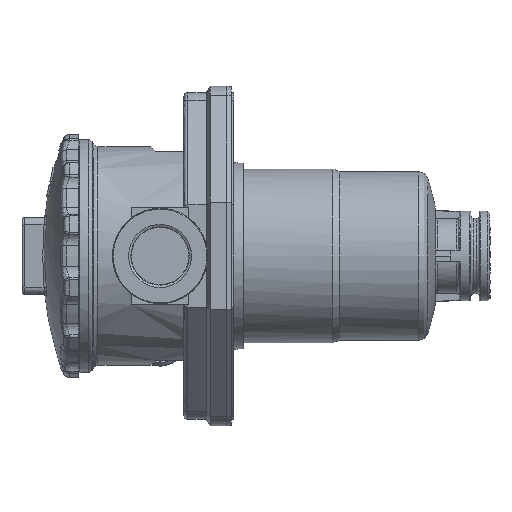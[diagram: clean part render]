
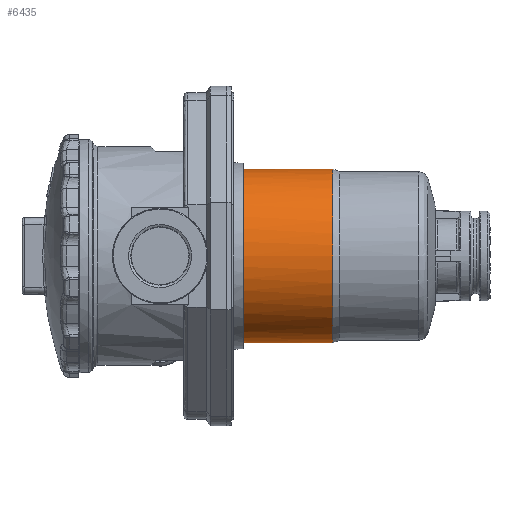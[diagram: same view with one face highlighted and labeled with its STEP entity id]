
A CAD part, front view. The second image highlights one B-rep face of the part: STEP entity #6435.
In plain terms, the highlighted free-form (B-spline) face has degree [2, 1] with [7, 2] control points.
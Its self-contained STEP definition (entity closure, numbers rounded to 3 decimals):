
#6356=CARTESIAN_POINT('V1050',(106.6,
   -36.5,0.));
#6357=VERTEX_POINT('V1050',#6356);
#6363=CARTESIAN_POINT('E1679',(106.6,
   -36.5,0.));
#6364=CARTESIAN_POINT('E1679',(106.6,
   -36.5,-63.22));
#6365=CARTESIAN_POINT('E1679',(106.6,
   18.25,-31.61));
#6366=CARTESIAN_POINT('E1679',(106.6,73.0,
   0.));
#6367=CARTESIAN_POINT('E1679',(106.6,
   18.25,31.61));
#6368=CARTESIAN_POINT('E1679',(106.6,
   -36.5,63.22));
#6369=CARTESIAN_POINT('E1679',(106.6,
   -36.5,0.));
#6377=(BOUNDED_CURVE()B_SPLINE_CURVE(2,(#6363,#6364,#6365,#6366,
   #6367,#6368,#6369),.CIRCULAR_ARC.,.T.,.U.)
   B_SPLINE_CURVE_WITH_KNOTS((3,2,2,3),(0.0,42.653,
   85.305,127.958),.UNSPECIFIED.)CURVE()
   GEOMETRIC_REPRESENTATION_ITEM()RATIONAL_B_SPLINE_CURVE((1.0,
   0.5,1.0,0.5,1.0,0.5,1.0)
   )REPRESENTATION_ITEM('E1679'));
#6378=EDGE_CURVE('E1679',#6357,#6357,#6377,.T.);
#6385=CARTESIAN_POINT('F635',(46.6,-36.5,
   0.));
#6386=CARTESIAN_POINT('F635',(46.6,-36.5,
   -63.22));
#6387=CARTESIAN_POINT('F635',(46.6,18.25,
   -31.61));
#6388=CARTESIAN_POINT('F635',(46.6,73.0,0.)
   );
#6389=CARTESIAN_POINT('F635',(46.6,18.25,
   31.61));
#6390=CARTESIAN_POINT('F635',(46.6,-36.5,
   63.22));
#6391=CARTESIAN_POINT('F635',(46.6,-36.5,
   0.));
#6392=CARTESIAN_POINT('F635',(106.6,
   -36.5,0.));
#6393=CARTESIAN_POINT('F635',(106.6,
   -36.5,-63.22));
#6394=CARTESIAN_POINT('F635',(106.6,18.25,
   -31.61));
#6395=CARTESIAN_POINT('F635',(106.6,73.0,
   0.));
#6396=CARTESIAN_POINT('F635',(106.6,18.25,
   31.61));
#6397=CARTESIAN_POINT('F635',(106.6,
   -36.5,63.22));
#6398=CARTESIAN_POINT('F635',(106.6,
   -36.5,0.));
#6406=(BOUNDED_SURFACE()B_SPLINE_SURFACE(2,1,((#6385,#6392),(
   #6386,#6393),(#6387,#6394),(#6388,#6395),(#6389,#6396),(
   #6390,#6397),(#6391,#6398)),.CYLINDRICAL_SURF.,.T.,.F.,.U.)
   B_SPLINE_SURFACE_WITH_KNOTS((3,2,2,3),(2,2),(0.0,
   2.107,4.215,6.322),(0.0,1.0),
   .UNSPECIFIED.)GEOMETRIC_REPRESENTATION_ITEM()
   RATIONAL_B_SPLINE_SURFACE(((1.0,1.0),(0.5,
   0.5),(1.0,1.0),(0.5,
   0.5),(1.0,1.0),(0.5,
   0.5),(1.0,1.0)))REPRESENTATION_ITEM('F635')
   SURFACE());
#6407=CARTESIAN_POINT('V1054',(69.0,-36.5,
   0.));
#6408=VERTEX_POINT('V1054',#6407);
#6409=CARTESIAN_POINT('E1687',(69.0,-36.5,
   0.));
#6410=CARTESIAN_POINT('E1687',(69.0,-36.5,
   63.22));
#6411=CARTESIAN_POINT('E1687',(69.0,18.25,
   31.61));
#6412=CARTESIAN_POINT('E1687',(69.0,73.0,0.));
#6413=CARTESIAN_POINT('E1687',(69.0,18.25,
   -31.61));
#6414=CARTESIAN_POINT('E1687',(69.0,-36.5,
   -63.22));
#6415=CARTESIAN_POINT('E1687',(69.0,-36.5,
   0.));
#6423=(BOUNDED_CURVE()B_SPLINE_CURVE(2,(#6409,#6410,#6411,#6412,
   #6413,#6414,#6415),.CIRCULAR_ARC.,.T.,.U.)
   B_SPLINE_CURVE_WITH_KNOTS((3,2,2,3),(0.0,0.333,
   0.667,1.0),.UNSPECIFIED.)CURVE()
   GEOMETRIC_REPRESENTATION_ITEM()RATIONAL_B_SPLINE_CURVE((1.0,
   0.5,1.0,0.5,1.0,0.5,1.0)
   )REPRESENTATION_ITEM('E1687'));
#6424=EDGE_CURVE('E1687',#6408,#6408,#6423,.T.);
#6425=ORIENTED_EDGE('E1687',*,*,#6424,.F.);
#6426=CARTESIAN_POINT('E1688',(106.6,
   -36.5,0.0));
#6427=CARTESIAN_POINT('E1688',(69.0,-36.5,0.0));
#6428=B_SPLINE_CURVE_WITH_KNOTS('E1688',1,(#6426,#6427),
   .POLYLINE_FORM.,.F.,.U.,(2,2),(0.0,0.627),
   .UNSPECIFIED.);
#6429=EDGE_CURVE('E1688',#6357,#6408,#6428,.T.);
#6430=ORIENTED_EDGE('E1688',*,*,#6429,.F.);
#6431=ORIENTED_EDGE('E1679',*,*,#6378,.F.);
#6432=ORIENTED_EDGE('E1688',*,*,#6429,.T.);
#6433=EDGE_LOOP('F635',(#6425,#6430,#6431,#6432));
#6434=FACE_OUTER_BOUND('F635',#6433,.T.);
#6435=ADVANCED_FACE('F635',(#6434),#6406,.T.);
